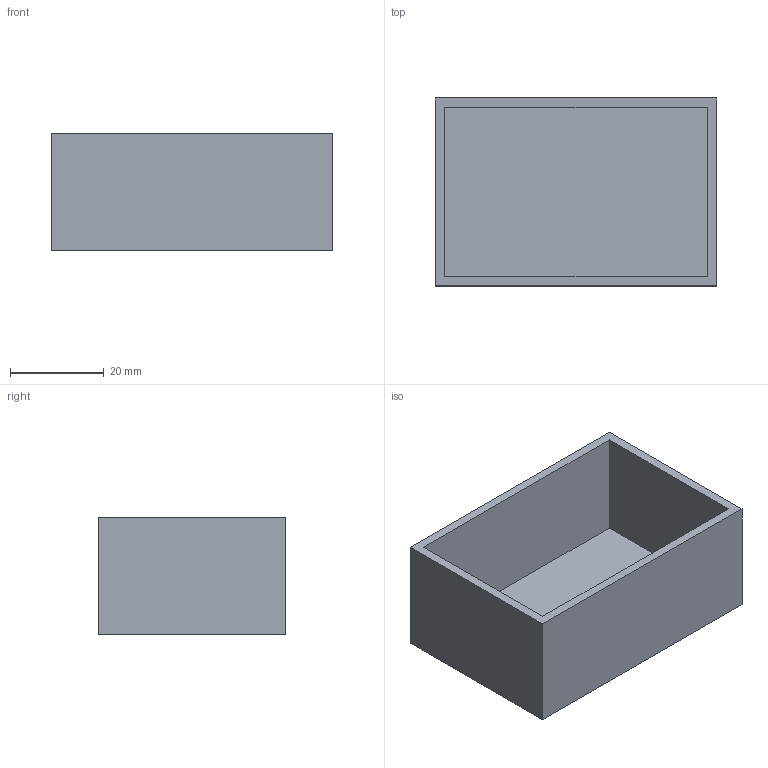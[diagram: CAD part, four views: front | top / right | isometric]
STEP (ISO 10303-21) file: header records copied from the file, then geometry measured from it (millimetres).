
FILE_DESCRIPTION(('Open CASCADE Model'),'2;1');
FILE_NAME('Open CASCADE Shape Model','2026-09-02T22:40:03',('Author'),( 'Open CASCADE'),'Open CASCADE STEP processor 7.8','Open CASCADE 7.8' ,'Unknown');
FILE_SCHEMA(('AUTOMOTIVE_DESIGN { 1 0 10303 214 1 1 1 1 }'));
Length unit declared in the file: millimetre
Products named in the file (1): Open CASCADE STEP translator 7.8 3
Bounding box: 60 x 40 x 25 mm (x, y, z)
Volume: 13632 mm3; surface area: 14032 mm2
Topology: 1 solids, 1 shells, 11 faces, 24 edges, 16 vertices
Faces by surface type: plane 11
Entity records: 612 total; most frequent: CARTESIAN_POINT 108, DIRECTION 88, LINE 64, VECTOR 64, ORIENTED_EDGE 48, PCURVE 48, DEFINITIONAL_REPRESENTATION 48, EDGE_CURVE 24
